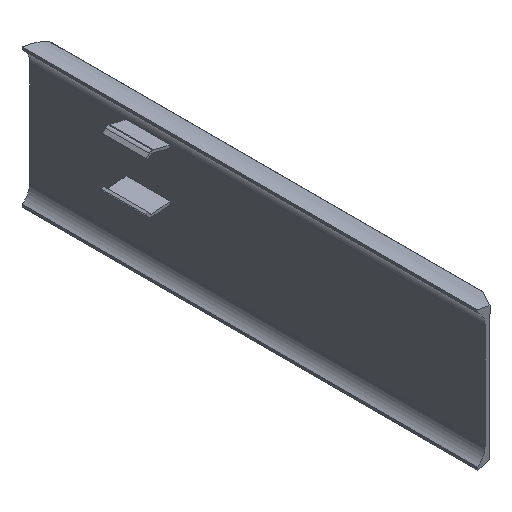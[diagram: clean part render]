
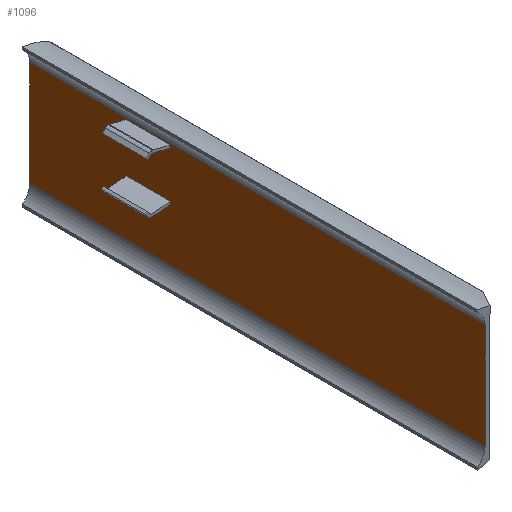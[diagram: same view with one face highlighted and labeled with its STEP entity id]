
A CAD part, isometric view. The second image highlights one B-rep face of the part: STEP entity #1096.
In plain terms, the highlighted planar face has unit normal (-1, 0, 0).
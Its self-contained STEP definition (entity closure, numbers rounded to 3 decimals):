
#8 = ORIENTED_EDGE ( 'NONE', *, *, #510, .T. ) ;
#14 = ORIENTED_EDGE ( 'NONE', *, *, #531, .F. ) ;
#15 = ORIENTED_EDGE ( 'NONE', *, *, #549, .T. ) ;
#26 = LINE ( 'NONE', #1016, #166 ) ;
#27 = ORIENTED_EDGE ( 'NONE', *, *, #520, .T. ) ;
#30 = ORIENTED_EDGE ( 'NONE', *, *, #516, .F. ) ;
#54 = FACE_BOUND ( 'NONE', #376, .T. ) ;
#56 = FACE_OUTER_BOUND ( 'NONE', #375, .T. ) ;
#62 = FACE_BOUND ( 'NONE', #360, .T. ) ;
#79 = ORIENTED_EDGE ( 'NONE', *, *, #542, .T. ) ;
#97 = ORIENTED_EDGE ( 'NONE', *, *, #537, .T. ) ;
#124 = VECTOR ( 'NONE', #945, 1000. ) ;
#125 = LINE ( 'NONE', #947, #124 ) ;
#129 = VECTOR ( 'NONE', #955, 1000. ) ;
#130 = LINE ( 'NONE', #956, #129 ) ;
#140 = VECTOR ( 'NONE', #967, 1000. ) ;
#141 = LINE ( 'NONE', #968, #140 ) ;
#142 = LINE ( 'NONE', #950, #147 ) ;
#147 = VECTOR ( 'NONE', #948, 1000. ) ;
#148 = ORIENTED_EDGE ( 'NONE', *, *, #430, .F. ) ;
#153 = VECTOR ( 'NONE', #980, 1000. ) ;
#155 = LINE ( 'NONE', #994, #153 ) ;
#163 = VECTOR ( 'NONE', #999, 1000. ) ;
#164 = LINE ( 'NONE', #1000, #163 ) ;
#166 = VECTOR ( 'NONE', #1015, 1000. ) ;
#180 = VECTOR ( 'NONE', #1046, 1000. ) ;
#182 = VECTOR ( 'NONE', #1059, 1000. ) ;
#183 = LINE ( 'NONE', #1060, #182 ) ;
#190 = LINE ( 'NONE', #1079, #195 ) ;
#191 = LINE ( 'NONE', #1047, #180 ) ;
#195 = VECTOR ( 'NONE', #1068, 1000. ) ;
#196 = LINE ( 'NONE', #1078, #198 ) ;
#198 = VECTOR ( 'NONE', #1077, 1000. ) ;
#218 = VECTOR ( 'NONE', #667, 1000. ) ;
#228 = LINE ( 'NONE', #691, #218 ) ;
#360 = EDGE_LOOP ( 'NONE', ( #412, #398, #97, #27 ) ) ;
#375 = EDGE_LOOP ( 'NONE', ( #79, #148, #30, #385 ) ) ;
#376 = EDGE_LOOP ( 'NONE', ( #14, #414, #8, #15 ) ) ;
#385 = ORIENTED_EDGE ( 'NONE', *, *, #546, .T. ) ;
#398 = ORIENTED_EDGE ( 'NONE', *, *, #512, .F. ) ;
#412 = ORIENTED_EDGE ( 'NONE', *, *, #527, .F. ) ;
#414 = ORIENTED_EDGE ( 'NONE', *, *, #548, .F. ) ;
#430 = EDGE_CURVE ( 'NONE', #849, #830, #228, .T. ) ;
#469 = AXIS2_PLACEMENT_3D ( 'NONE', #738, #736, #735 ) ;
#510 = EDGE_CURVE ( 'NONE', #1052, #998, #196, .T. ) ;
#512 = EDGE_CURVE ( 'NONE', #920, #989, #190, .T. ) ;
#516 = EDGE_CURVE ( 'NONE', #886, #849, #183, .T. ) ;
#520 = EDGE_CURVE ( 'NONE', #935, #963, #191, .T. ) ;
#527 = EDGE_CURVE ( 'NONE', #989, #963, #26, .T. ) ;
#531 = EDGE_CURVE ( 'NONE', #1069, #821, #164, .T. ) ;
#537 = EDGE_CURVE ( 'NONE', #920, #935, #155, .T. ) ;
#542 = EDGE_CURVE ( 'NONE', #834, #830, #141, .T. ) ;
#546 = EDGE_CURVE ( 'NONE', #886, #834, #130, .T. ) ;
#548 = EDGE_CURVE ( 'NONE', #1052, #1069, #142, .T. ) ;
#549 = EDGE_CURVE ( 'NONE', #998, #821, #125, .T. ) ;
#667 = DIRECTION ( 'NONE',  ( 0., 0., -1. ) ) ;
#691 = CARTESIAN_POINT ( 'NONE',  ( -0.052, -29.848, 6.67 ) ) ;
#735 = DIRECTION ( 'NONE',  ( 0., 1., 0. ) ) ;
#736 = DIRECTION ( 'NONE',  ( -1., 0., 0. ) ) ;
#738 = CARTESIAN_POINT ( 'NONE',  ( -0.052, 23.952, 6.67 ) ) ;
#753 = PLANE ( 'NONE',  #469 ) ;
#805 = CARTESIAN_POINT ( 'NONE',  ( -0.052, 7.352, 18.922 ) ) ;
#810 = CARTESIAN_POINT ( 'NONE',  ( -0.052, 7.352, 18.613 ) ) ;
#821 = VERTEX_POINT ( 'NONE', #871 ) ;
#830 = VERTEX_POINT ( 'NONE', #873 ) ;
#833 = CARTESIAN_POINT ( 'NONE',  ( -0.052, 12.552, 18.613 ) ) ;
#834 = VERTEX_POINT ( 'NONE', #869 ) ;
#836 = CARTESIAN_POINT ( 'NONE',  ( -0.052, 7.352, 13.16 ) ) ;
#840 = CARTESIAN_POINT ( 'NONE',  ( -0.052, 12.552, 13.16 ) ) ;
#849 = VERTEX_POINT ( 'NONE', #868 ) ;
#850 = CARTESIAN_POINT ( 'NONE',  ( -0.052, 12.552, 12.858 ) ) ;
#855 = CARTESIAN_POINT ( 'NONE',  ( -0.052, 7.352, 12.858 ) ) ;
#865 = CARTESIAN_POINT ( 'NONE',  ( -0.052, 23.952, 19.13 ) ) ;
#868 = CARTESIAN_POINT ( 'NONE',  ( -0.052, -29.848, 19.13 ) ) ;
#869 = CARTESIAN_POINT ( 'NONE',  ( -0.052, 23.952, 6.67 ) ) ;
#871 = CARTESIAN_POINT ( 'NONE',  ( -0.052, 12.552, 18.922 ) ) ;
#873 = CARTESIAN_POINT ( 'NONE',  ( -0.052, -29.848, 6.67 ) ) ;
#886 = VERTEX_POINT ( 'NONE', #865 ) ;
#920 = VERTEX_POINT ( 'NONE', #855 ) ;
#935 = VERTEX_POINT ( 'NONE', #850 ) ;
#945 = DIRECTION ( 'NONE',  ( 0., 0., 1. ) ) ;
#947 = CARTESIAN_POINT ( 'NONE',  ( -0.052, 12.552, 18.613 ) ) ;
#948 = DIRECTION ( 'NONE',  ( 0., 0., 1. ) ) ;
#950 = CARTESIAN_POINT ( 'NONE',  ( -0.052, 7.352, 18.613 ) ) ;
#955 = DIRECTION ( 'NONE',  ( 0., 0., -1. ) ) ;
#956 = CARTESIAN_POINT ( 'NONE',  ( -0.052, 23.952, 6.67 ) ) ;
#963 = VERTEX_POINT ( 'NONE', #840 ) ;
#967 = DIRECTION ( 'NONE',  ( 0., -1., 0. ) ) ;
#968 = CARTESIAN_POINT ( 'NONE',  ( -0.052, 23.952, 6.67 ) ) ;
#980 = DIRECTION ( 'NONE',  ( 0., 1., 0. ) ) ;
#989 = VERTEX_POINT ( 'NONE', #836 ) ;
#994 = CARTESIAN_POINT ( 'NONE',  ( -0.052, 7.352, 12.858 ) ) ;
#998 = VERTEX_POINT ( 'NONE', #833 ) ;
#999 = DIRECTION ( 'NONE',  ( 0., 1., 0. ) ) ;
#1000 = CARTESIAN_POINT ( 'NONE',  ( -0.052, 7.352, 18.922 ) ) ;
#1015 = DIRECTION ( 'NONE',  ( 0., 1., 0. ) ) ;
#1016 = CARTESIAN_POINT ( 'NONE',  ( -0.052, 7.352, 13.16 ) ) ;
#1046 = DIRECTION ( 'NONE',  ( 0., 0., 1. ) ) ;
#1047 = CARTESIAN_POINT ( 'NONE',  ( -0.052, 12.552, 13.16 ) ) ;
#1052 = VERTEX_POINT ( 'NONE', #810 ) ;
#1059 = DIRECTION ( 'NONE',  ( 0., -1., 0. ) ) ;
#1060 = CARTESIAN_POINT ( 'NONE',  ( -0.052, 23.952, 19.13 ) ) ;
#1068 = DIRECTION ( 'NONE',  ( 0., 0., 1. ) ) ;
#1069 = VERTEX_POINT ( 'NONE', #805 ) ;
#1077 = DIRECTION ( 'NONE',  ( 0., 1., 0. ) ) ;
#1078 = CARTESIAN_POINT ( 'NONE',  ( -0.052, 7.352, 18.613 ) ) ;
#1079 = CARTESIAN_POINT ( 'NONE',  ( -0.052, 7.352, 13.16 ) ) ;
#1096 = ADVANCED_FACE ( 'NONE', ( #62, #56, #54 ), #753, .T. ) ;
